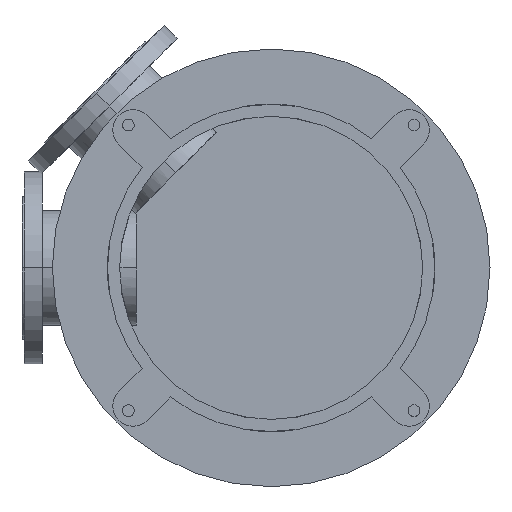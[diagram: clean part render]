
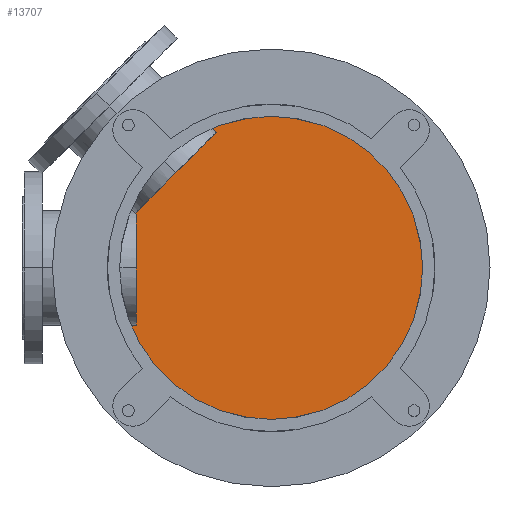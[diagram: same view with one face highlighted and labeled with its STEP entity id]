
A CAD part, front view. The second image highlights one B-rep face of the part: STEP entity #13707.
In plain terms, the highlighted planar face has unit normal (0, -1, 0).
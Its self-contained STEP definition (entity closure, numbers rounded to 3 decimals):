
#3287=CARTESIAN_POINT('',(0.,668.,0.));
#3288=DIRECTION('',(0.,-1.,0.));
#3289=DIRECTION('',(0.,0.,1.));
#3290=AXIS2_PLACEMENT_3D('',#3287,#3288,#3289);
#3461=CARTESIAN_POINT('',(0.,668.,0.));
#3462=DIRECTION('',(0.,-1.,0.));
#3463=DIRECTION('',(0.,0.,-1.));
#3464=AXIS2_PLACEMENT_3D('',#3461,#3462,#3463);
#8643=CARTESIAN_POINT('',(0.,668.,240.));
#8644=CARTESIAN_POINT('',(0.,668.,-240.));
#8645=VERTEX_POINT('',#8643);
#8646=VERTEX_POINT('',#8644);
#13697=CARTESIAN_POINT('',(0.,668.,0.));
#13698=DIRECTION('',(0.,1.,0.));
#13699=DIRECTION('',(0.,0.,-1.));
#13700=AXIS2_PLACEMENT_3D('',#13697,#13698,#13699);
#13701=PLANE('',#13700);
#13702=ORIENTED_EDGE('',*,*,#13675,.F.);
#13704=ORIENTED_EDGE('',*,*,#13703,.F.);
#13705=EDGE_LOOP('',(#13702,#13704));
#13706=FACE_OUTER_BOUND('',#13705,.F.);
#13707=ADVANCED_FACE('',(#13706),#13701,.F.);
#3291=CIRCLE('',#3290,240.);
#3465=CIRCLE('',#3464,240.);
#13675=EDGE_CURVE('',#8645,#8646,#3291,.T.);
#13703=EDGE_CURVE('',#8646,#8645,#3465,.T.);
